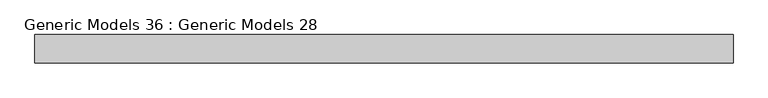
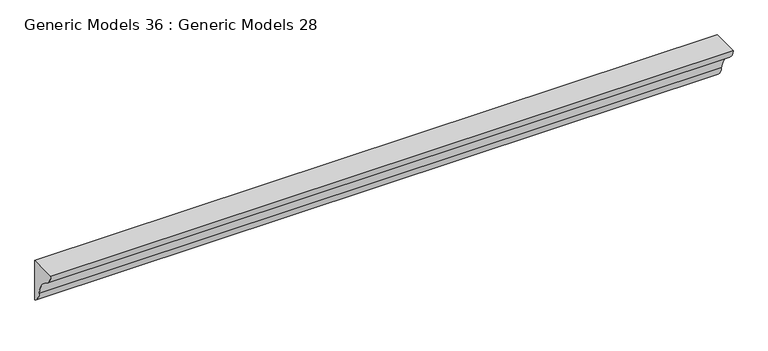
"""IFC4 building model written with IfcOpenShell, lengths in millimetres: proxy geometry, Generic Models 36 : Generic Models 28."""

from ifc_helpers import new_model, si_unit, point, frame, frame_2d, origin, place, context, project, spatial, polyline, circle_curve, trimmed, segment, composite_curve, outline, extrude, source, transform, mapped, element, save


def generic_models_36_generic_models_28_87b564ec(model_context):
    return source(origin(), model_context, "Body", "SweptSolid", [
        extrude(outline(composite_curve([segment(trimmed(circle_curve(frame_2d((9754.8789399, 5561.7827937)), 28.2794007), [point((9740.9, 5537.2))], [point((9726.810615, 5558.3340775))], False, "CARTESIAN"), True, "CONTINUOUS"), segment(trimmed(circle_curve(frame_2d((9681.7454802, 5552.7969868)), 45.4040279), [point((9726.810615, 5558.3340775))], [point((9704.189385, 5592.2659225))], True, "CARTESIAN"), True, "CONTINUOUS"), segment(trimmed(circle_curve(frame_2d((9718.1683249, 5616.8487162)), 28.2794007), [point((9704.189385, 5592.2659225))], [point((9690.1, 5613.4))], False, "CARTESIAN"), True, "CONTINUOUS"), segment(polyline([(9690.1, 5613.4), (9740.9, 5613.4), (9740.9, 5537.2)]), True, "CONTINUOUS")], self_intersect=False)), frame((1625.4972395, 0.0, 0.0), z_axis=(1.0, 0.0, 0.0), x_axis=(0.0, 1.0, 0.0)), (0.0, 0.0, 1.0), 1244.7027605),
    ])


if __name__ == "__main__":
    model = new_model("IFC4")
    model_context = context("Model", 3, world=origin())
    ifc_project = project(units=[si_unit("LENGTHUNIT", "METRE", prefix="MILLI")], contexts=[model_context])
    site = spatial("IfcSite", under=ifc_project)
    building = spatial("IfcBuilding", under=site)
    placement = place(None, origin())
    generic_models_36_generic_models_28_shape = generic_models_36_generic_models_28_87b564ec(model_context)
    element("IfcBuildingElementProxy", 1, Name="Generic Models 36 : Generic Models 28", ObjectType="Generic Models 36 : Generic Models 28", at=placement, inside=building, context=model_context, shape_type="MappedRepresentation", body=[
        mapped(generic_models_36_generic_models_28_shape, transform((0.0, 0.0, 0.0), x_axis=(1.0, 0.0, 0.0), y_axis=(0.0, 1.0, 0.0), z_axis=(0.0, 0.0, 1.0))),
    ])
    save(model, "model.ifc")
